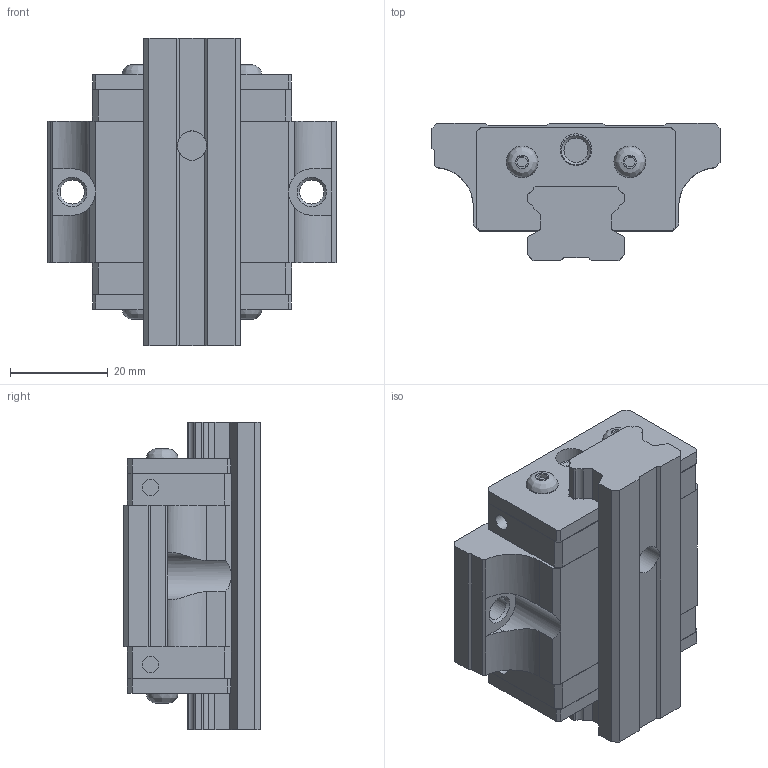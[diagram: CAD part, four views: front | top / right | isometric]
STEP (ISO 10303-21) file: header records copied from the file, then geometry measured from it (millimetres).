
FILE_DESCRIPTION( ( 'STEP AP214' ), '1' );
FILE_NAME( 'C:/Users/mimi4/OneDrive/Desktop/BSQ賅筐葭/MCS/MCS20SF.stp', '2019-10-01T08:09:03', ( ' ' ), ( ' ' ), 'XStep 1.0', 'VISICAD', ' ' );
FILE_SCHEMA( ( 'automotive_design' ) );
Length unit declared in the file: metre
Products named in the file (6): 1; 2; 3; 4; 5; 6
Bounding box: 59 x 28 x 63 mm (x, y, z)
Volume: 54495.7 mm3; surface area: 21731 mm2
Topology: 6 solids, 6 shells, 278 faces, 761 edges, 507 vertices
Faces by surface type: plane 218, cylinder 50, cone 6, bspline 4
Full cylindrical faces by diameter (mm): 3.3 x4, 4.917 x4, 6 x1, 6.5 x10, 9.5 x1
Entity records: 10998 total; most frequent: CARTESIAN_POINT 1670, ORIENTED_EDGE 1442, DIRECTION 1394, EDGE_CURVE 721, LINE 600, VECTOR 600, VERTEX_POINT 497, AXIS2_PLACEMENT_3D 397
